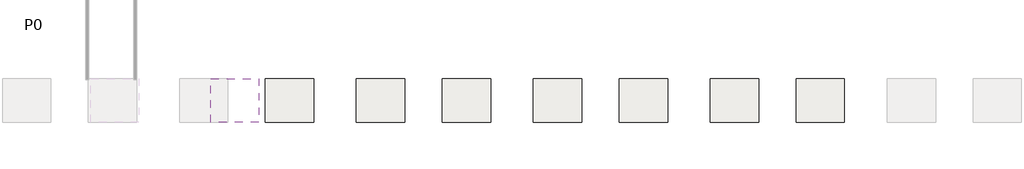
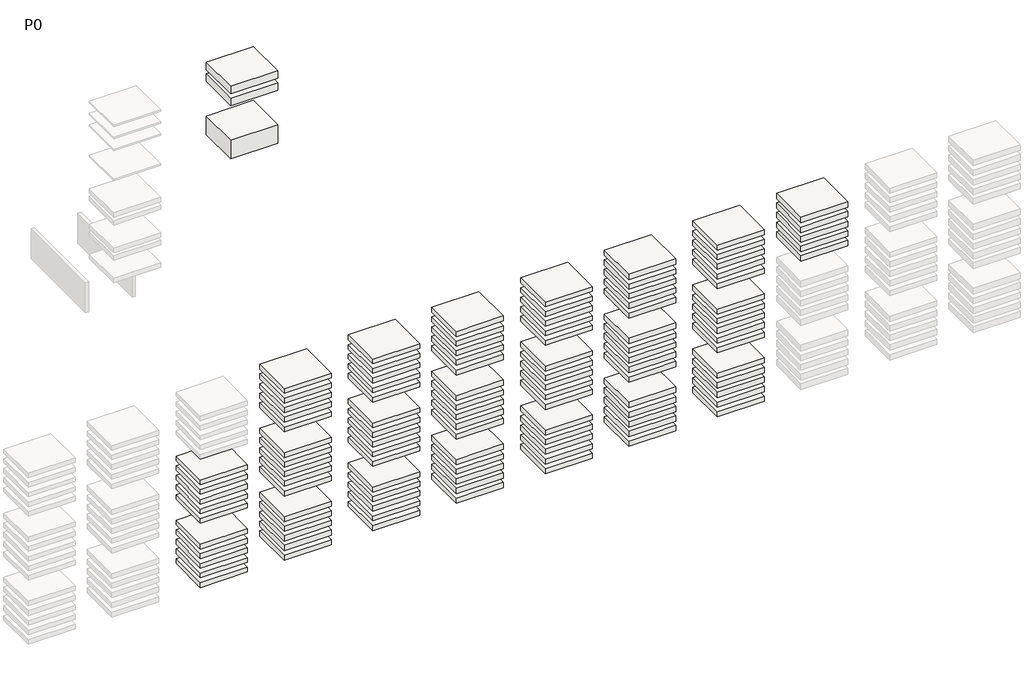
# One storey, part 5 of 11: 108 slabs.
"""IFC4 building model written with IfcOpenShell, lengths in millimetres."""

from ifc_helpers import new_model, si_unit, frame, origin, place, context, project, spatial, polyline, outline, extrude, element, save

model = new_model("IFC4")

# Units and contexts
model_context = context("Model", 3, world=origin())
ifc_project = project(units=[si_unit("LENGTHUNIT", "METRE", prefix="MILLI")], contexts=[model_context])

# Site, building, storey
site = spatial("IfcSite", under=ifc_project)
building = spatial("IfcBuilding", under=site)
storey = spatial("IfcBuildingStorey", under=building, Name="P0", Elevation=0.0)

# Slabs
placement = place(None, origin())
element("IfcSlab", 1, ObjectType="NNEH19 H6", at=placement, inside=storey, context=model_context, shape_type="SweptSolid", body=[
    extrude(outline(polyline([(97510.1564071, 1686.0689128), (97510.1564071, -1013.9310872), (94510.1564071, -1013.9310872), (94510.1564071, 1686.0689128), (97510.1564071, 1686.0689128)])), frame((0.0, 0.0, -11789.5322376), z_axis=(0.0, 0.0, 1.0), x_axis=(1.0, 0.0, 0.0)), (0.0, 0.0, 1.0), 308.0),
])
element("IfcSlab", 2, ObjectType="NNEH19 H6", at=placement, inside=storey, context=model_context, shape_type="SweptSolid", body=[
    extrude(outline(polyline([(97510.1564071, 1686.0689128), (97510.1564071, -1013.9310872), (94510.1564071, -1013.9310872), (94510.1564071, 1686.0689128), (97510.1564071, 1686.0689128)])), frame((0.0, 0.0, -12439.5322376), z_axis=(0.0, 0.0, 1.0), x_axis=(1.0, 0.0, 0.0)), (0.0, 0.0, 1.0), 308.0),
])
element("IfcSlab", 3, ObjectType="NNEH19 H6", at=placement, inside=storey, context=model_context, shape_type="SweptSolid", body=[
    extrude(outline(polyline([(97510.1564071, 1686.0689128), (97510.1564071, -1013.9310872), (94510.1564071, -1013.9310872), (94510.1564071, 1686.0689128), (97510.1564071, 1686.0689128)])), frame((0.0, 0.0, -13089.5322376), z_axis=(0.0, 0.0, 1.0), x_axis=(1.0, 0.0, 0.0)), (0.0, 0.0, 1.0), 308.0),
])
element("IfcSlab", 4, ObjectType="NNEH19 H6", at=placement, inside=storey, context=model_context, shape_type="SweptSolid", body=[
    extrude(outline(polyline([(97510.1564071, 1686.0689128), (97510.1564071, -1013.9310872), (94510.1564071, -1013.9310872), (94510.1564071, 1686.0689128), (97510.1564071, 1686.0689128)])), frame((0.0, 0.0, -13739.5322376), z_axis=(0.0, 0.0, 1.0), x_axis=(1.0, 0.0, 0.0)), (0.0, 0.0, 1.0), 308.0),
])
element("IfcSlab", 5, ObjectType="NNEH19 H6", at=placement, inside=storey, context=model_context, shape_type="SweptSolid", body=[
    extrude(outline(polyline([(97510.1564071, 1686.0689128), (97510.1564071, -1013.9310872), (94510.1564071, -1013.9310872), (94510.1564071, 1686.0689128), (97510.1564071, 1686.0689128)])), frame((0.0, 0.0, -14389.5322376), z_axis=(0.0, 0.0, 1.0), x_axis=(1.0, 0.0, 0.0)), (0.0, 0.0, 1.0), 308.0),
])
element("IfcSlab", 6, ObjectType="NNEH19 H7", at=placement, inside=storey, context=model_context, shape_type="SweptSolid", body=[
    extrude(outline(polyline([(97510.1564071, 1686.0689128), (97510.1564071, -1013.9310872), (94510.1564071, -1013.9310872), (94510.1564071, 1686.0689128), (97510.1564071, 1686.0689128)])), frame((0.0, 0.0, -16119.5323192), z_axis=(0.0, 0.0, 1.0), x_axis=(1.0, 0.0, 0.0)), (0.0, 0.0, 1.0), 318.0),
])
element("IfcSlab", 7, ObjectType="NNEH19 H7", at=placement, inside=storey, context=model_context, shape_type="SweptSolid", body=[
    extrude(outline(polyline([(97510.1564071, 1686.0689128), (97510.1564071, -1013.9310872), (94510.1564071, -1013.9310872), (94510.1564071, 1686.0689128), (97510.1564071, 1686.0689128)])), frame((0.0, 0.0, -16769.5323192), z_axis=(0.0, 0.0, 1.0), x_axis=(1.0, 0.0, 0.0)), (0.0, 0.0, 1.0), 318.0),
])
element("IfcSlab", 8, ObjectType="NNEH19 H7", at=placement, inside=storey, context=model_context, shape_type="SweptSolid", body=[
    extrude(outline(polyline([(97510.1564071, 1686.0689128), (97510.1564071, -1013.9310872), (94510.1564071, -1013.9310872), (94510.1564071, 1686.0689128), (97510.1564071, 1686.0689128)])), frame((0.0, 0.0, -17419.5323192), z_axis=(0.0, 0.0, 1.0), x_axis=(1.0, 0.0, 0.0)), (0.0, 0.0, 1.0), 318.0),
])
element("IfcSlab", 9, ObjectType="NNEH19 H7", at=placement, inside=storey, context=model_context, shape_type="SweptSolid", body=[
    extrude(outline(polyline([(97510.1564071, 1686.0689128), (97510.1564071, -1013.9310872), (94510.1564071, -1013.9310872), (94510.1564071, 1686.0689128), (97510.1564071, 1686.0689128)])), frame((0.0, 0.0, -18069.5323192), z_axis=(0.0, 0.0, 1.0), x_axis=(1.0, 0.0, 0.0)), (0.0, 0.0, 1.0), 318.0),
])
element("IfcSlab", 10, ObjectType="NNEH19 H7", at=placement, inside=storey, context=model_context, shape_type="SweptSolid", body=[
    extrude(outline(polyline([(97510.1564071, 1686.0689128), (97510.1564071, -1013.9310872), (94510.1564071, -1013.9310872), (94510.1564071, 1686.0689128), (97510.1564071, 1686.0689128)])), frame((0.0, 0.0, -18719.5323192), z_axis=(0.0, 0.0, 1.0), x_axis=(1.0, 0.0, 0.0)), (0.0, 0.0, 1.0), 318.0),
])
element("IfcSlab", 11, ObjectType="NNEH19 H8", at=placement, inside=storey, context=model_context, shape_type="SweptSolid", body=[
    extrude(outline(polyline([(102850.1564071, 1686.0689128), (102850.1564071, -1013.9310872), (99850.1564071, -1013.9310872), (99850.1564071, 1686.0689128), (102850.1564071, 1686.0689128)])), frame((0.0, 0.0, -7489.5323192), z_axis=(0.0, 0.0, 1.0), x_axis=(1.0, 0.0, 0.0)), (0.0, 0.0, 1.0), 328.0),
])
element("IfcSlab", 12, ObjectType="NNEH19 H8", at=placement, inside=storey, context=model_context, shape_type="SweptSolid", body=[
    extrude(outline(polyline([(102850.1564071, 1686.0689128), (102850.1564071, -1013.9310872), (99850.1564071, -1013.9310872), (99850.1564071, 1686.0689128), (102850.1564071, 1686.0689128)])), frame((0.0, 0.0, -8139.5323192), z_axis=(0.0, 0.0, 1.0), x_axis=(1.0, 0.0, 0.0)), (0.0, 0.0, 1.0), 328.0),
])
element("IfcSlab", 13, ObjectType="NNEH19 H8", at=placement, inside=storey, context=model_context, shape_type="SweptSolid", body=[
    extrude(outline(polyline([(102850.1564071, 1686.0689128), (102850.1564071, -1013.9310872), (99850.1564071, -1013.9310872), (99850.1564071, 1686.0689128), (102850.1564071, 1686.0689128)])), frame((0.0, 0.0, -8789.5323192), z_axis=(0.0, 0.0, 1.0), x_axis=(1.0, 0.0, 0.0)), (0.0, 0.0, 1.0), 328.0),
])
element("IfcSlab", 14, ObjectType="NNEH19 H8", at=placement, inside=storey, context=model_context, shape_type="SweptSolid", body=[
    extrude(outline(polyline([(102850.1564071, 1686.0689128), (102850.1564071, -1013.9310872), (99850.1564071, -1013.9310872), (99850.1564071, 1686.0689128), (102850.1564071, 1686.0689128)])), frame((0.0, 0.0, -9439.5323192), z_axis=(0.0, 0.0, 1.0), x_axis=(1.0, 0.0, 0.0)), (0.0, 0.0, 1.0), 328.0),
])
element("IfcSlab", 15, ObjectType="NNEH19 H8", at=placement, inside=storey, context=model_context, shape_type="SweptSolid", body=[
    extrude(outline(polyline([(102850.1564071, 1686.0689128), (102850.1564071, -1013.9310872), (99850.1564071, -1013.9310872), (99850.1564071, 1686.0689128), (102850.1564071, 1686.0689128)])), frame((0.0, 0.0, -10089.5324008), z_axis=(0.0, 0.0, 1.0), x_axis=(1.0, 0.0, 0.0)), (0.0, 0.0, 1.0), 328.0),
])
element("IfcSlab", 16, ObjectType="NNEH19 H9", at=placement, inside=storey, context=model_context, shape_type="SweptSolid", body=[
    extrude(outline(polyline([(102850.1564071, 1686.0689128), (102850.1564071, -1013.9310872), (99850.1564071, -1013.9310872), (99850.1564071, 1686.0689128), (102850.1564071, 1686.0689128)])), frame((0.0, 0.0, -11819.5322376), z_axis=(0.0, 0.0, 1.0), x_axis=(1.0, 0.0, 0.0)), (0.0, 0.0, 1.0), 338.0),
])
element("IfcSlab", 17, ObjectType="NNEH19 H9", at=placement, inside=storey, context=model_context, shape_type="SweptSolid", body=[
    extrude(outline(polyline([(102850.1564071, 1686.0689128), (102850.1564071, -1013.9310872), (99850.1564071, -1013.9310872), (99850.1564071, 1686.0689128), (102850.1564071, 1686.0689128)])), frame((0.0, 0.0, -12469.5322376), z_axis=(0.0, 0.0, 1.0), x_axis=(1.0, 0.0, 0.0)), (0.0, 0.0, 1.0), 338.0),
])
element("IfcSlab", 18, ObjectType="NNEH19 H9", at=placement, inside=storey, context=model_context, shape_type="SweptSolid", body=[
    extrude(outline(polyline([(102850.1564071, 1686.0689128), (102850.1564071, -1013.9310872), (99850.1564071, -1013.9310872), (99850.1564071, 1686.0689128), (102850.1564071, 1686.0689128)])), frame((0.0, 0.0, -13119.5322376), z_axis=(0.0, 0.0, 1.0), x_axis=(1.0, 0.0, 0.0)), (0.0, 0.0, 1.0), 338.0),
])
element("IfcSlab", 19, ObjectType="NNEH19 H9", at=placement, inside=storey, context=model_context, shape_type="SweptSolid", body=[
    extrude(outline(polyline([(102850.1564071, 1686.0689128), (102850.1564071, -1013.9310872), (99850.1564071, -1013.9310872), (99850.1564071, 1686.0689128), (102850.1564071, 1686.0689128)])), frame((0.0, 0.0, -13769.5322376), z_axis=(0.0, 0.0, 1.0), x_axis=(1.0, 0.0, 0.0)), (0.0, 0.0, 1.0), 338.0),
])
element("IfcSlab", 20, ObjectType="NNEH19 H9", at=placement, inside=storey, context=model_context, shape_type="SweptSolid", body=[
    extrude(outline(polyline([(102850.1564071, 1686.0689128), (102850.1564071, -1013.9310872), (99850.1564071, -1013.9310872), (99850.1564071, 1686.0689128), (102850.1564071, 1686.0689128)])), frame((0.0, 0.0, -14419.5322376), z_axis=(0.0, 0.0, 1.0), x_axis=(1.0, 0.0, 0.0)), (0.0, 0.0, 1.0), 338.0),
])
element("IfcSlab", 21, ObjectType="NNEH19 H10", at=placement, inside=storey, context=model_context, shape_type="SweptSolid", body=[
    extrude(outline(polyline([(102850.1564071, 1686.0689128), (102850.1564071, -1013.9310872), (99850.1564071, -1013.9310872), (99850.1564071, 1686.0689128), (102850.1564071, 1686.0689128)])), frame((0.0, 0.0, -16149.5323192), z_axis=(0.0, 0.0, 1.0), x_axis=(1.0, 0.0, 0.0)), (0.0, 0.0, 1.0), 348.0),
])
element("IfcSlab", 22, ObjectType="NNEH19 H10", at=placement, inside=storey, context=model_context, shape_type="SweptSolid", body=[
    extrude(outline(polyline([(102850.1564071, 1686.0689128), (102850.1564071, -1013.9310872), (99850.1564071, -1013.9310872), (99850.1564071, 1686.0689128), (102850.1564071, 1686.0689128)])), frame((0.0, 0.0, -16799.5323192), z_axis=(0.0, 0.0, 1.0), x_axis=(1.0, 0.0, 0.0)), (0.0, 0.0, 1.0), 348.0),
])
element("IfcSlab", 23, ObjectType="NNEH19 H10", at=placement, inside=storey, context=model_context, shape_type="SweptSolid", body=[
    extrude(outline(polyline([(102850.1564071, 1686.0689128), (102850.1564071, -1013.9310872), (99850.1564071, -1013.9310872), (99850.1564071, 1686.0689128), (102850.1564071, 1686.0689128)])), frame((0.0, 0.0, -17449.5323192), z_axis=(0.0, 0.0, 1.0), x_axis=(1.0, 0.0, 0.0)), (0.0, 0.0, 1.0), 348.0),
])
element("IfcSlab", 24, ObjectType="NNEH19 H10", at=placement, inside=storey, context=model_context, shape_type="SweptSolid", body=[
    extrude(outline(polyline([(102850.1564071, 1686.0689128), (102850.1564071, -1013.9310872), (99850.1564071, -1013.9310872), (99850.1564071, 1686.0689128), (102850.1564071, 1686.0689128)])), frame((0.0, 0.0, -18099.5323192), z_axis=(0.0, 0.0, 1.0), x_axis=(1.0, 0.0, 0.0)), (0.0, 0.0, 1.0), 348.0),
])
element("IfcSlab", 25, ObjectType="NNEH19 H10", at=placement, inside=storey, context=model_context, shape_type="SweptSolid", body=[
    extrude(outline(polyline([(102850.1564071, 1686.0689128), (102850.1564071, -1013.9310872), (99850.1564071, -1013.9310872), (99850.1564071, 1686.0689128), (102850.1564071, 1686.0689128)])), frame((0.0, 0.0, -18749.5323192), z_axis=(0.0, 0.0, 1.0), x_axis=(1.0, 0.0, 0.0)), (0.0, 0.0, 1.0), 348.0),
])
element("IfcSlab", 26, ObjectType="NNEH20 H5", at=placement, inside=storey, context=model_context, shape_type="SweptSolid", body=[
    extrude(outline(polyline([(108510.1564071, 1686.0689128), (108510.1564071, -1013.9310872), (105510.1564071, -1013.9310872), (105510.1564071, 1686.0689128), (108510.1564071, 1686.0689128)])), frame((0.0, 0.0, -7469.5324008), z_axis=(0.0, 0.0, 1.0), x_axis=(1.0, 0.0, 0.0)), (0.0, 0.0, 1.0), 308.0),
])
element("IfcSlab", 27, ObjectType="NNEH20 H5", at=placement, inside=storey, context=model_context, shape_type="SweptSolid", body=[
    extrude(outline(polyline([(108510.1564071, 1686.0689128), (108510.1564071, -1013.9310872), (105510.1564071, -1013.9310872), (105510.1564071, 1686.0689128), (108510.1564071, 1686.0689128)])), frame((0.0, 0.0, -8119.5323192), z_axis=(0.0, 0.0, 1.0), x_axis=(1.0, 0.0, 0.0)), (0.0, 0.0, 1.0), 308.0),
])
element("IfcSlab", 28, ObjectType="NNEH20 H5", at=placement, inside=storey, context=model_context, shape_type="SweptSolid", body=[
    extrude(outline(polyline([(108510.1564071, 1686.0689128), (108510.1564071, -1013.9310872), (105510.1564071, -1013.9310872), (105510.1564071, 1686.0689128), (108510.1564071, 1686.0689128)])), frame((0.0, 0.0, -8769.5323192), z_axis=(0.0, 0.0, 1.0), x_axis=(1.0, 0.0, 0.0)), (0.0, 0.0, 1.0), 308.0),
])
element("IfcSlab", 29, ObjectType="NNEH20 H5", at=placement, inside=storey, context=model_context, shape_type="SweptSolid", body=[
    extrude(outline(polyline([(108510.1564071, 1686.0689128), (108510.1564071, -1013.9310872), (105510.1564071, -1013.9310872), (105510.1564071, 1686.0689128), (108510.1564071, 1686.0689128)])), frame((0.0, 0.0, -9419.5323192), z_axis=(0.0, 0.0, 1.0), x_axis=(1.0, 0.0, 0.0)), (0.0, 0.0, 1.0), 308.0),
])
element("IfcSlab", 30, ObjectType="NNEH20 H5", at=placement, inside=storey, context=model_context, shape_type="SweptSolid", body=[
    extrude(outline(polyline([(108510.1564071, 1686.0689128), (108510.1564071, -1013.9310872), (105510.1564071, -1013.9310872), (105510.1564071, 1686.0689128), (108510.1564071, 1686.0689128)])), frame((0.0, 0.0, -10069.5324008), z_axis=(0.0, 0.0, 1.0), x_axis=(1.0, 0.0, 0.0)), (0.0, 0.0, 1.0), 308.0),
])
element("IfcSlab", 31, ObjectType="NNEH20 H6", at=placement, inside=storey, context=model_context, shape_type="SweptSolid", body=[
    extrude(outline(polyline([(108510.1564071, 1686.0689128), (108510.1564071, -1013.9310872), (105510.1564071, -1013.9310872), (105510.1564071, 1686.0689128), (108510.1564071, 1686.0689128)])), frame((0.0, 0.0, -11799.5322376), z_axis=(0.0, 0.0, 1.0), x_axis=(1.0, 0.0, 0.0)), (0.0, 0.0, 1.0), 318.0),
])
element("IfcSlab", 32, ObjectType="NNEH20 H6", at=placement, inside=storey, context=model_context, shape_type="SweptSolid", body=[
    extrude(outline(polyline([(108510.1564071, 1686.0689128), (108510.1564071, -1013.9310872), (105510.1564071, -1013.9310872), (105510.1564071, 1686.0689128), (108510.1564071, 1686.0689128)])), frame((0.0, 0.0, -12449.5322376), z_axis=(0.0, 0.0, 1.0), x_axis=(1.0, 0.0, 0.0)), (0.0, 0.0, 1.0), 318.0),
])
element("IfcSlab", 33, ObjectType="NNEH20 H6", at=placement, inside=storey, context=model_context, shape_type="SweptSolid", body=[
    extrude(outline(polyline([(108510.1564071, 1686.0689128), (108510.1564071, -1013.9310872), (105510.1564071, -1013.9310872), (105510.1564071, 1686.0689128), (108510.1564071, 1686.0689128)])), frame((0.0, 0.0, -13099.5322376), z_axis=(0.0, 0.0, 1.0), x_axis=(1.0, 0.0, 0.0)), (0.0, 0.0, 1.0), 318.0),
])
element("IfcSlab", 34, ObjectType="NNEH20 H6", at=placement, inside=storey, context=model_context, shape_type="SweptSolid", body=[
    extrude(outline(polyline([(108510.1564071, 1686.0689128), (108510.1564071, -1013.9310872), (105510.1564071, -1013.9310872), (105510.1564071, 1686.0689128), (108510.1564071, 1686.0689128)])), frame((0.0, 0.0, -13749.5322376), z_axis=(0.0, 0.0, 1.0), x_axis=(1.0, 0.0, 0.0)), (0.0, 0.0, 1.0), 318.0),
])
element("IfcSlab", 35, ObjectType="NNEH20 H6", at=placement, inside=storey, context=model_context, shape_type="SweptSolid", body=[
    extrude(outline(polyline([(108510.1564071, 1686.0689128), (108510.1564071, -1013.9310872), (105510.1564071, -1013.9310872), (105510.1564071, 1686.0689128), (108510.1564071, 1686.0689128)])), frame((0.0, 0.0, -14399.5322376), z_axis=(0.0, 0.0, 1.0), x_axis=(1.0, 0.0, 0.0)), (0.0, 0.0, 1.0), 318.0),
])
element("IfcSlab", 36, ObjectType="NNEH20 H7", at=placement, inside=storey, context=model_context, shape_type="SweptSolid", body=[
    extrude(outline(polyline([(108510.1564071, 1686.0689128), (108510.1564071, -1013.9310872), (105510.1564071, -1013.9310872), (105510.1564071, 1686.0689128), (108510.1564071, 1686.0689128)])), frame((0.0, 0.0, -16129.5323192), z_axis=(0.0, 0.0, 1.0), x_axis=(1.0, 0.0, 0.0)), (0.0, 0.0, 1.0), 328.0),
])
element("IfcSlab", 37, ObjectType="NNEH20 H7", at=placement, inside=storey, context=model_context, shape_type="SweptSolid", body=[
    extrude(outline(polyline([(108510.1564071, 1686.0689128), (108510.1564071, -1013.9310872), (105510.1564071, -1013.9310872), (105510.1564071, 1686.0689128), (108510.1564071, 1686.0689128)])), frame((0.0, 0.0, -16779.5323192), z_axis=(0.0, 0.0, 1.0), x_axis=(1.0, 0.0, 0.0)), (0.0, 0.0, 1.0), 328.0),
])
element("IfcSlab", 38, ObjectType="NNEH20 H7", at=placement, inside=storey, context=model_context, shape_type="SweptSolid", body=[
    extrude(outline(polyline([(108510.1564071, 1686.0689128), (108510.1564071, -1013.9310872), (105510.1564071, -1013.9310872), (105510.1564071, 1686.0689128), (108510.1564071, 1686.0689128)])), frame((0.0, 0.0, -17429.5323192), z_axis=(0.0, 0.0, 1.0), x_axis=(1.0, 0.0, 0.0)), (0.0, 0.0, 1.0), 328.0),
])
element("IfcSlab", 39, ObjectType="NNEH20 H7", at=placement, inside=storey, context=model_context, shape_type="SweptSolid", body=[
    extrude(outline(polyline([(108510.1564071, 1686.0689128), (108510.1564071, -1013.9310872), (105510.1564071, -1013.9310872), (105510.1564071, 1686.0689128), (108510.1564071, 1686.0689128)])), frame((0.0, 0.0, -18079.5323192), z_axis=(0.0, 0.0, 1.0), x_axis=(1.0, 0.0, 0.0)), (0.0, 0.0, 1.0), 328.0),
])
element("IfcSlab", 40, ObjectType="NNEH20 H7", at=placement, inside=storey, context=model_context, shape_type="SweptSolid", body=[
    extrude(outline(polyline([(108510.1564071, 1686.0689128), (108510.1564071, -1013.9310872), (105510.1564071, -1013.9310872), (105510.1564071, 1686.0689128), (108510.1564071, 1686.0689128)])), frame((0.0, 0.0, -18729.5323192), z_axis=(0.0, 0.0, 1.0), x_axis=(1.0, 0.0, 0.0)), (0.0, 0.0, 1.0), 328.0),
])
element("IfcSlab", 41, ObjectType="NNEH20 H8", at=placement, inside=storey, context=model_context, shape_type="SweptSolid", body=[
    extrude(outline(polyline([(113850.1564071, 1686.0689128), (113850.1564071, -1013.9310872), (110850.1564071, -1013.9310872), (110850.1564071, 1686.0689128), (113850.1564071, 1686.0689128)])), frame((0.0, 0.0, -7499.5323192), z_axis=(0.0, 0.0, 1.0), x_axis=(1.0, 0.0, 0.0)), (0.0, 0.0, 1.0), 338.0),
])
element("IfcSlab", 42, ObjectType="NNEH20 H8", at=placement, inside=storey, context=model_context, shape_type="SweptSolid", body=[
    extrude(outline(polyline([(113850.1564071, 1686.0689128), (113850.1564071, -1013.9310872), (110850.1564071, -1013.9310872), (110850.1564071, 1686.0689128), (113850.1564071, 1686.0689128)])), frame((0.0, 0.0, -8149.5323192), z_axis=(0.0, 0.0, 1.0), x_axis=(1.0, 0.0, 0.0)), (0.0, 0.0, 1.0), 338.0),
])
element("IfcSlab", 43, ObjectType="NNEH20 H8", at=placement, inside=storey, context=model_context, shape_type="SweptSolid", body=[
    extrude(outline(polyline([(113850.1564071, 1686.0689128), (113850.1564071, -1013.9310872), (110850.1564071, -1013.9310872), (110850.1564071, 1686.0689128), (113850.1564071, 1686.0689128)])), frame((0.0, 0.0, -8799.5323192), z_axis=(0.0, 0.0, 1.0), x_axis=(1.0, 0.0, 0.0)), (0.0, 0.0, 1.0), 338.0),
])
element("IfcSlab", 44, ObjectType="NNEH20 H8", at=placement, inside=storey, context=model_context, shape_type="SweptSolid", body=[
    extrude(outline(polyline([(113850.1564071, 1686.0689128), (113850.1564071, -1013.9310872), (110850.1564071, -1013.9310872), (110850.1564071, 1686.0689128), (113850.1564071, 1686.0689128)])), frame((0.0, 0.0, -9449.5323192), z_axis=(0.0, 0.0, 1.0), x_axis=(1.0, 0.0, 0.0)), (0.0, 0.0, 1.0), 338.0),
])
element("IfcSlab", 45, ObjectType="NNEH20 H8", at=placement, inside=storey, context=model_context, shape_type="SweptSolid", body=[
    extrude(outline(polyline([(113850.1564071, 1686.0689128), (113850.1564071, -1013.9310872), (110850.1564071, -1013.9310872), (110850.1564071, 1686.0689128), (113850.1564071, 1686.0689128)])), frame((0.0, 0.0, -10099.5324008), z_axis=(0.0, 0.0, 1.0), x_axis=(1.0, 0.0, 0.0)), (0.0, 0.0, 1.0), 338.0),
])
element("IfcSlab", 46, ObjectType="NNEH20 H9", at=placement, inside=storey, context=model_context, shape_type="SweptSolid", body=[
    extrude(outline(polyline([(113850.1564071, 1686.0689128), (113850.1564071, -1013.9310872), (110850.1564071, -1013.9310872), (110850.1564071, 1686.0689128), (113850.1564071, 1686.0689128)])), frame((0.0, 0.0, -11829.5322376), z_axis=(0.0, 0.0, 1.0), x_axis=(1.0, 0.0, 0.0)), (0.0, 0.0, 1.0), 348.0),
])
element("IfcSlab", 47, ObjectType="NNEH20 H9", at=placement, inside=storey, context=model_context, shape_type="SweptSolid", body=[
    extrude(outline(polyline([(113850.1564071, 1686.0689128), (113850.1564071, -1013.9310872), (110850.1564071, -1013.9310872), (110850.1564071, 1686.0689128), (113850.1564071, 1686.0689128)])), frame((0.0, 0.0, -12479.5322376), z_axis=(0.0, 0.0, 1.0), x_axis=(1.0, 0.0, 0.0)), (0.0, 0.0, 1.0), 348.0),
])
element("IfcSlab", 48, ObjectType="NNEH20 H9", at=placement, inside=storey, context=model_context, shape_type="SweptSolid", body=[
    extrude(outline(polyline([(113850.1564071, 1686.0689128), (113850.1564071, -1013.9310872), (110850.1564071, -1013.9310872), (110850.1564071, 1686.0689128), (113850.1564071, 1686.0689128)])), frame((0.0, 0.0, -13129.5322376), z_axis=(0.0, 0.0, 1.0), x_axis=(1.0, 0.0, 0.0)), (0.0, 0.0, 1.0), 348.0),
])
element("IfcSlab", 49, ObjectType="NNEH20 H9", at=placement, inside=storey, context=model_context, shape_type="SweptSolid", body=[
    extrude(outline(polyline([(113850.1564071, 1686.0689128), (113850.1564071, -1013.9310872), (110850.1564071, -1013.9310872), (110850.1564071, 1686.0689128), (113850.1564071, 1686.0689128)])), frame((0.0, 0.0, -13779.5322376), z_axis=(0.0, 0.0, 1.0), x_axis=(1.0, 0.0, 0.0)), (0.0, 0.0, 1.0), 348.0),
])
element("IfcSlab", 50, ObjectType="NNEH20 H9", at=placement, inside=storey, context=model_context, shape_type="SweptSolid", body=[
    extrude(outline(polyline([(113850.1564071, 1686.0689128), (113850.1564071, -1013.9310872), (110850.1564071, -1013.9310872), (110850.1564071, 1686.0689128), (113850.1564071, 1686.0689128)])), frame((0.0, 0.0, -14429.5322376), z_axis=(0.0, 0.0, 1.0), x_axis=(1.0, 0.0, 0.0)), (0.0, 0.0, 1.0), 348.0),
])
element("IfcSlab", 51, ObjectType="NNEH20 H10", at=placement, inside=storey, context=model_context, shape_type="SweptSolid", body=[
    extrude(outline(polyline([(113850.1564071, 1686.0689128), (113850.1564071, -1013.9310872), (110850.1564071, -1013.9310872), (110850.1564071, 1686.0689128), (113850.1564071, 1686.0689128)])), frame((0.0, 0.0, -16159.5323192), z_axis=(0.0, 0.0, 1.0), x_axis=(1.0, 0.0, 0.0)), (0.0, 0.0, 1.0), 358.0),
])
element("IfcSlab", 52, ObjectType="NNEH20 H10", at=placement, inside=storey, context=model_context, shape_type="SweptSolid", body=[
    extrude(outline(polyline([(113850.1564071, 1686.0689128), (113850.1564071, -1013.9310872), (110850.1564071, -1013.9310872), (110850.1564071, 1686.0689128), (113850.1564071, 1686.0689128)])), frame((0.0, 0.0, -16809.5323192), z_axis=(0.0, 0.0, 1.0), x_axis=(1.0, 0.0, 0.0)), (0.0, 0.0, 1.0), 358.0),
])
element("IfcSlab", 53, ObjectType="NNEH20 H10", at=placement, inside=storey, context=model_context, shape_type="SweptSolid", body=[
    extrude(outline(polyline([(113850.1564071, 1686.0689128), (113850.1564071, -1013.9310872), (110850.1564071, -1013.9310872), (110850.1564071, 1686.0689128), (113850.1564071, 1686.0689128)])), frame((0.0, 0.0, -17459.5323192), z_axis=(0.0, 0.0, 1.0), x_axis=(1.0, 0.0, 0.0)), (0.0, 0.0, 1.0), 358.0),
])
element("IfcSlab", 54, ObjectType="NNEH20 H10", at=placement, inside=storey, context=model_context, shape_type="SweptSolid", body=[
    extrude(outline(polyline([(113850.1564071, 1686.0689128), (113850.1564071, -1013.9310872), (110850.1564071, -1013.9310872), (110850.1564071, 1686.0689128), (113850.1564071, 1686.0689128)])), frame((0.0, 0.0, -18109.5323192), z_axis=(0.0, 0.0, 1.0), x_axis=(1.0, 0.0, 0.0)), (0.0, 0.0, 1.0), 358.0),
])
element("IfcSlab", 55, ObjectType="NNEH20 H10", at=placement, inside=storey, context=model_context, shape_type="SweptSolid", body=[
    extrude(outline(polyline([(113850.1564071, 1686.0689128), (113850.1564071, -1013.9310872), (110850.1564071, -1013.9310872), (110850.1564071, 1686.0689128), (113850.1564071, 1686.0689128)])), frame((0.0, 0.0, -18759.5323192), z_axis=(0.0, 0.0, 1.0), x_axis=(1.0, 0.0, 0.0)), (0.0, 0.0, 1.0), 358.0),
])
element("IfcSlab", 56, ObjectType="NNEH21 H5", at=placement, inside=storey, context=model_context, shape_type="SweptSolid", body=[
    extrude(outline(polyline([(119510.1564071, 1686.0689128), (119510.1564071, -1013.9310872), (116510.1564071, -1013.9310872), (116510.1564071, 1686.0689128), (119510.1564071, 1686.0689128)])), frame((0.0, 0.0, -7479.5324008), z_axis=(0.0, 0.0, 1.0), x_axis=(1.0, 0.0, 0.0)), (0.0, 0.0, 1.0), 318.0),
])
element("IfcSlab", 57, ObjectType="NNEH21 H5", at=placement, inside=storey, context=model_context, shape_type="SweptSolid", body=[
    extrude(outline(polyline([(119510.1564071, 1686.0689128), (119510.1564071, -1013.9310872), (116510.1564071, -1013.9310872), (116510.1564071, 1686.0689128), (119510.1564071, 1686.0689128)])), frame((0.0, 0.0, -8129.5323192), z_axis=(0.0, 0.0, 1.0), x_axis=(1.0, 0.0, 0.0)), (0.0, 0.0, 1.0), 318.0),
])
element("IfcSlab", 58, ObjectType="NNEH21 H5", at=placement, inside=storey, context=model_context, shape_type="SweptSolid", body=[
    extrude(outline(polyline([(119510.1564071, 1686.0689128), (119510.1564071, -1013.9310872), (116510.1564071, -1013.9310872), (116510.1564071, 1686.0689128), (119510.1564071, 1686.0689128)])), frame((0.0, 0.0, -8779.5323192), z_axis=(0.0, 0.0, 1.0), x_axis=(1.0, 0.0, 0.0)), (0.0, 0.0, 1.0), 318.0),
])
element("IfcSlab", 59, ObjectType="NNEH21 H5", at=placement, inside=storey, context=model_context, shape_type="SweptSolid", body=[
    extrude(outline(polyline([(119510.1564071, 1686.0689128), (119510.1564071, -1013.9310872), (116510.1564071, -1013.9310872), (116510.1564071, 1686.0689128), (119510.1564071, 1686.0689128)])), frame((0.0, 0.0, -9429.5323192), z_axis=(0.0, 0.0, 1.0), x_axis=(1.0, 0.0, 0.0)), (0.0, 0.0, 1.0), 318.0),
])
element("IfcSlab", 60, ObjectType="NNEH21 H5", at=placement, inside=storey, context=model_context, shape_type="SweptSolid", body=[
    extrude(outline(polyline([(119510.1564071, 1686.0689128), (119510.1564071, -1013.9310872), (116510.1564071, -1013.9310872), (116510.1564071, 1686.0689128), (119510.1564071, 1686.0689128)])), frame((0.0, 0.0, -10079.5324008), z_axis=(0.0, 0.0, 1.0), x_axis=(1.0, 0.0, 0.0)), (0.0, 0.0, 1.0), 318.0),
])
element("IfcSlab", 61, ObjectType="NNEH21 H6", at=placement, inside=storey, context=model_context, shape_type="SweptSolid", body=[
    extrude(outline(polyline([(119510.1564071, 1686.0689128), (119510.1564071, -1013.9310872), (116510.1564071, -1013.9310872), (116510.1564071, 1686.0689128), (119510.1564071, 1686.0689128)])), frame((0.0, 0.0, -11809.5322376), z_axis=(0.0, 0.0, 1.0), x_axis=(1.0, 0.0, 0.0)), (0.0, 0.0, 1.0), 328.0),
])
element("IfcSlab", 62, ObjectType="NNEH21 H6", at=placement, inside=storey, context=model_context, shape_type="SweptSolid", body=[
    extrude(outline(polyline([(119510.1564071, 1686.0689128), (119510.1564071, -1013.9310872), (116510.1564071, -1013.9310872), (116510.1564071, 1686.0689128), (119510.1564071, 1686.0689128)])), frame((0.0, 0.0, -12459.5322376), z_axis=(0.0, 0.0, 1.0), x_axis=(1.0, 0.0, 0.0)), (0.0, 0.0, 1.0), 328.0),
])
element("IfcSlab", 63, ObjectType="NNEH21 H6", at=placement, inside=storey, context=model_context, shape_type="SweptSolid", body=[
    extrude(outline(polyline([(119510.1564071, 1686.0689128), (119510.1564071, -1013.9310872), (116510.1564071, -1013.9310872), (116510.1564071, 1686.0689128), (119510.1564071, 1686.0689128)])), frame((0.0, 0.0, -13109.5322376), z_axis=(0.0, 0.0, 1.0), x_axis=(1.0, 0.0, 0.0)), (0.0, 0.0, 1.0), 328.0),
])
element("IfcSlab", 64, ObjectType="NNEH21 H6", at=placement, inside=storey, context=model_context, shape_type="SweptSolid", body=[
    extrude(outline(polyline([(119510.1564071, 1686.0689128), (119510.1564071, -1013.9310872), (116510.1564071, -1013.9310872), (116510.1564071, 1686.0689128), (119510.1564071, 1686.0689128)])), frame((0.0, 0.0, -13759.5322376), z_axis=(0.0, 0.0, 1.0), x_axis=(1.0, 0.0, 0.0)), (0.0, 0.0, 1.0), 328.0),
])
element("IfcSlab", 65, ObjectType="NNEH21 H6", at=placement, inside=storey, context=model_context, shape_type="SweptSolid", body=[
    extrude(outline(polyline([(119510.1564071, 1686.0689128), (119510.1564071, -1013.9310872), (116510.1564071, -1013.9310872), (116510.1564071, 1686.0689128), (119510.1564071, 1686.0689128)])), frame((0.0, 0.0, -14409.5322376), z_axis=(0.0, 0.0, 1.0), x_axis=(1.0, 0.0, 0.0)), (0.0, 0.0, 1.0), 328.0),
])
element("IfcSlab", 66, ObjectType="NNEH21 H7", at=placement, inside=storey, context=model_context, shape_type="SweptSolid", body=[
    extrude(outline(polyline([(119510.1564071, 1686.0689128), (119510.1564071, -1013.9310872), (116510.1564071, -1013.9310872), (116510.1564071, 1686.0689128), (119510.1564071, 1686.0689128)])), frame((0.0, 0.0, -16139.5323192), z_axis=(0.0, 0.0, 1.0), x_axis=(1.0, 0.0, 0.0)), (0.0, 0.0, 1.0), 338.0),
])
element("IfcSlab", 67, ObjectType="NNEH21 H7", at=placement, inside=storey, context=model_context, shape_type="SweptSolid", body=[
    extrude(outline(polyline([(119510.1564071, 1686.0689128), (119510.1564071, -1013.9310872), (116510.1564071, -1013.9310872), (116510.1564071, 1686.0689128), (119510.1564071, 1686.0689128)])), frame((0.0, 0.0, -16789.5323192), z_axis=(0.0, 0.0, 1.0), x_axis=(1.0, 0.0, 0.0)), (0.0, 0.0, 1.0), 338.0),
])
element("IfcSlab", 68, ObjectType="NNEH21 H7", at=placement, inside=storey, context=model_context, shape_type="SweptSolid", body=[
    extrude(outline(polyline([(119510.1564071, 1686.0689128), (119510.1564071, -1013.9310872), (116510.1564071, -1013.9310872), (116510.1564071, 1686.0689128), (119510.1564071, 1686.0689128)])), frame((0.0, 0.0, -17439.5323192), z_axis=(0.0, 0.0, 1.0), x_axis=(1.0, 0.0, 0.0)), (0.0, 0.0, 1.0), 338.0),
])
element("IfcSlab", 69, ObjectType="NNEH21 H7", at=placement, inside=storey, context=model_context, shape_type="SweptSolid", body=[
    extrude(outline(polyline([(119510.1564071, 1686.0689128), (119510.1564071, -1013.9310872), (116510.1564071, -1013.9310872), (116510.1564071, 1686.0689128), (119510.1564071, 1686.0689128)])), frame((0.0, 0.0, -18089.5323192), z_axis=(0.0, 0.0, 1.0), x_axis=(1.0, 0.0, 0.0)), (0.0, 0.0, 1.0), 338.0),
])
element("IfcSlab", 70, ObjectType="NNEH21 H7", at=placement, inside=storey, context=model_context, shape_type="SweptSolid", body=[
    extrude(outline(polyline([(119510.1564071, 1686.0689128), (119510.1564071, -1013.9310872), (116510.1564071, -1013.9310872), (116510.1564071, 1686.0689128), (119510.1564071, 1686.0689128)])), frame((0.0, 0.0, -18739.5323192), z_axis=(0.0, 0.0, 1.0), x_axis=(1.0, 0.0, 0.0)), (0.0, 0.0, 1.0), 338.0),
])
element("IfcSlab", 71, ObjectType="NNEH21 H8", at=placement, inside=storey, context=model_context, shape_type="SweptSolid", body=[
    extrude(outline(polyline([(124850.1564071, 1686.0689128), (124850.1564071, -1013.9310872), (121850.1564071, -1013.9310872), (121850.1564071, 1686.0689128), (124850.1564071, 1686.0689128)])), frame((0.0, 0.0, -7509.5323192), z_axis=(0.0, 0.0, 1.0), x_axis=(1.0, 0.0, 0.0)), (0.0, 0.0, 1.0), 348.0),
])
element("IfcSlab", 72, ObjectType="NNEH21 H8", at=placement, inside=storey, context=model_context, shape_type="SweptSolid", body=[
    extrude(outline(polyline([(124850.1564071, 1686.0689128), (124850.1564071, -1013.9310872), (121850.1564071, -1013.9310872), (121850.1564071, 1686.0689128), (124850.1564071, 1686.0689128)])), frame((0.0, 0.0, -8159.5323192), z_axis=(0.0, 0.0, 1.0), x_axis=(1.0, 0.0, 0.0)), (0.0, 0.0, 1.0), 348.0),
])
element("IfcSlab", 73, ObjectType="NNEH21 H8", at=placement, inside=storey, context=model_context, shape_type="SweptSolid", body=[
    extrude(outline(polyline([(124850.1564071, 1686.0689128), (124850.1564071, -1013.9310872), (121850.1564071, -1013.9310872), (121850.1564071, 1686.0689128), (124850.1564071, 1686.0689128)])), frame((0.0, 0.0, -8809.5323192), z_axis=(0.0, 0.0, 1.0), x_axis=(1.0, 0.0, 0.0)), (0.0, 0.0, 1.0), 348.0),
])
element("IfcSlab", 74, ObjectType="NNEH21 H8", at=placement, inside=storey, context=model_context, shape_type="SweptSolid", body=[
    extrude(outline(polyline([(124850.1564071, 1686.0689128), (124850.1564071, -1013.9310872), (121850.1564071, -1013.9310872), (121850.1564071, 1686.0689128), (124850.1564071, 1686.0689128)])), frame((0.0, 0.0, -9459.5323192), z_axis=(0.0, 0.0, 1.0), x_axis=(1.0, 0.0, 0.0)), (0.0, 0.0, 1.0), 348.0),
])
element("IfcSlab", 75, ObjectType="NNEH21 H8", at=placement, inside=storey, context=model_context, shape_type="SweptSolid", body=[
    extrude(outline(polyline([(124850.1564071, 1686.0689128), (124850.1564071, -1013.9310872), (121850.1564071, -1013.9310872), (121850.1564071, 1686.0689128), (124850.1564071, 1686.0689128)])), frame((0.0, 0.0, -10109.5324008), z_axis=(0.0, 0.0, 1.0), x_axis=(1.0, 0.0, 0.0)), (0.0, 0.0, 1.0), 348.0),
])
element("IfcSlab", 76, ObjectType="NNEH21 H9", at=placement, inside=storey, context=model_context, shape_type="SweptSolid", body=[
    extrude(outline(polyline([(124850.1564071, 1686.0689128), (124850.1564071, -1013.9310872), (121850.1564071, -1013.9310872), (121850.1564071, 1686.0689128), (124850.1564071, 1686.0689128)])), frame((0.0, 0.0, -11839.5322376), z_axis=(0.0, 0.0, 1.0), x_axis=(1.0, 0.0, 0.0)), (0.0, 0.0, 1.0), 358.0),
])
element("IfcSlab", 77, ObjectType="NNEH21 H9", at=placement, inside=storey, context=model_context, shape_type="SweptSolid", body=[
    extrude(outline(polyline([(124850.1564071, 1686.0689128), (124850.1564071, -1013.9310872), (121850.1564071, -1013.9310872), (121850.1564071, 1686.0689128), (124850.1564071, 1686.0689128)])), frame((0.0, 0.0, -12489.5322376), z_axis=(0.0, 0.0, 1.0), x_axis=(1.0, 0.0, 0.0)), (0.0, 0.0, 1.0), 358.0),
])
element("IfcSlab", 78, ObjectType="NNEH21 H9", at=placement, inside=storey, context=model_context, shape_type="SweptSolid", body=[
    extrude(outline(polyline([(124850.1564071, 1686.0689128), (124850.1564071, -1013.9310872), (121850.1564071, -1013.9310872), (121850.1564071, 1686.0689128), (124850.1564071, 1686.0689128)])), frame((0.0, 0.0, -13139.5322376), z_axis=(0.0, 0.0, 1.0), x_axis=(1.0, 0.0, 0.0)), (0.0, 0.0, 1.0), 358.0),
])
element("IfcSlab", 79, ObjectType="NNEH21 H9", at=placement, inside=storey, context=model_context, shape_type="SweptSolid", body=[
    extrude(outline(polyline([(124850.1564071, 1686.0689128), (124850.1564071, -1013.9310872), (121850.1564071, -1013.9310872), (121850.1564071, 1686.0689128), (124850.1564071, 1686.0689128)])), frame((0.0, 0.0, -13789.5322376), z_axis=(0.0, 0.0, 1.0), x_axis=(1.0, 0.0, 0.0)), (0.0, 0.0, 1.0), 358.0),
])
element("IfcSlab", 80, ObjectType="NNEH21 H9", at=placement, inside=storey, context=model_context, shape_type="SweptSolid", body=[
    extrude(outline(polyline([(124850.1564071, 1686.0689128), (124850.1564071, -1013.9310872), (121850.1564071, -1013.9310872), (121850.1564071, 1686.0689128), (124850.1564071, 1686.0689128)])), frame((0.0, 0.0, -14439.5322376), z_axis=(0.0, 0.0, 1.0), x_axis=(1.0, 0.0, 0.0)), (0.0, 0.0, 1.0), 358.0),
])
element("IfcSlab", 81, ObjectType="NNEH21 H10", at=placement, inside=storey, context=model_context, shape_type="SweptSolid", body=[
    extrude(outline(polyline([(124850.1564071, 1686.0689128), (124850.1564071, -1013.9310872), (121850.1564071, -1013.9310872), (121850.1564071, 1686.0689128), (124850.1564071, 1686.0689128)])), frame((0.0, 0.0, -16169.5323192), z_axis=(0.0, 0.0, 1.0), x_axis=(1.0, 0.0, 0.0)), (0.0, 0.0, 1.0), 368.0),
])
element("IfcSlab", 82, ObjectType="NNEH21 H10", at=placement, inside=storey, context=model_context, shape_type="SweptSolid", body=[
    extrude(outline(polyline([(124850.1564071, 1686.0689128), (124850.1564071, -1013.9310872), (121850.1564071, -1013.9310872), (121850.1564071, 1686.0689128), (124850.1564071, 1686.0689128)])), frame((0.0, 0.0, -16819.5323192), z_axis=(0.0, 0.0, 1.0), x_axis=(1.0, 0.0, 0.0)), (0.0, 0.0, 1.0), 368.0),
])
element("IfcSlab", 83, ObjectType="NNEH21 H10", at=placement, inside=storey, context=model_context, shape_type="SweptSolid", body=[
    extrude(outline(polyline([(124850.1564071, 1686.0689128), (124850.1564071, -1013.9310872), (121850.1564071, -1013.9310872), (121850.1564071, 1686.0689128), (124850.1564071, 1686.0689128)])), frame((0.0, 0.0, -17469.5323192), z_axis=(0.0, 0.0, 1.0), x_axis=(1.0, 0.0, 0.0)), (0.0, 0.0, 1.0), 368.0),
])
element("IfcSlab", 84, ObjectType="NNEH21 H10", at=placement, inside=storey, context=model_context, shape_type="SweptSolid", body=[
    extrude(outline(polyline([(124850.1564071, 1686.0689128), (124850.1564071, -1013.9310872), (121850.1564071, -1013.9310872), (121850.1564071, 1686.0689128), (124850.1564071, 1686.0689128)])), frame((0.0, 0.0, -18119.5323192), z_axis=(0.0, 0.0, 1.0), x_axis=(1.0, 0.0, 0.0)), (0.0, 0.0, 1.0), 368.0),
])
element("IfcSlab", 85, ObjectType="NNEH21 H10", at=placement, inside=storey, context=model_context, shape_type="SweptSolid", body=[
    extrude(outline(polyline([(124850.1564071, 1686.0689128), (124850.1564071, -1013.9310872), (121850.1564071, -1013.9310872), (121850.1564071, 1686.0689128), (124850.1564071, 1686.0689128)])), frame((0.0, 0.0, -18769.5323192), z_axis=(0.0, 0.0, 1.0), x_axis=(1.0, 0.0, 0.0)), (0.0, 0.0, 1.0), 368.0),
])
element("IfcSlab", 86, ObjectType="NNEH23 H5", at=placement, inside=storey, context=model_context, shape_type="SweptSolid", body=[
    extrude(outline(polyline([(130510.1564071, 1686.0689128), (130510.1564071, -1013.9310872), (127510.1564071, -1013.9310872), (127510.1564071, 1686.0689128), (130510.1564071, 1686.0689128)])), frame((0.0, 0.0, -7499.5324008), z_axis=(0.0, 0.0, 1.0), x_axis=(1.0, 0.0, 0.0)), (0.0, 0.0, 1.0), 338.0),
])
element("IfcSlab", 87, ObjectType="NNEH23 H5", at=placement, inside=storey, context=model_context, shape_type="SweptSolid", body=[
    extrude(outline(polyline([(130510.1564071, 1686.0689128), (130510.1564071, -1013.9310872), (127510.1564071, -1013.9310872), (127510.1564071, 1686.0689128), (130510.1564071, 1686.0689128)])), frame((0.0, 0.0, -8149.5323192), z_axis=(0.0, 0.0, 1.0), x_axis=(1.0, 0.0, 0.0)), (0.0, 0.0, 1.0), 338.0),
])
element("IfcSlab", 88, ObjectType="NNEH23 H5", at=placement, inside=storey, context=model_context, shape_type="SweptSolid", body=[
    extrude(outline(polyline([(130510.1564071, 1686.0689128), (130510.1564071, -1013.9310872), (127510.1564071, -1013.9310872), (127510.1564071, 1686.0689128), (130510.1564071, 1686.0689128)])), frame((0.0, 0.0, -8799.5323192), z_axis=(0.0, 0.0, 1.0), x_axis=(1.0, 0.0, 0.0)), (0.0, 0.0, 1.0), 338.0),
])
element("IfcSlab", 89, ObjectType="NNEH23 H5", at=placement, inside=storey, context=model_context, shape_type="SweptSolid", body=[
    extrude(outline(polyline([(130510.1564071, 1686.0689128), (130510.1564071, -1013.9310872), (127510.1564071, -1013.9310872), (127510.1564071, 1686.0689128), (130510.1564071, 1686.0689128)])), frame((0.0, 0.0, -9449.5323192), z_axis=(0.0, 0.0, 1.0), x_axis=(1.0, 0.0, 0.0)), (0.0, 0.0, 1.0), 338.0),
])
element("IfcSlab", 90, ObjectType="NNEH23 H5", at=placement, inside=storey, context=model_context, shape_type="SweptSolid", body=[
    extrude(outline(polyline([(130510.1564071, 1686.0689128), (130510.1564071, -1013.9310872), (127510.1564071, -1013.9310872), (127510.1564071, 1686.0689128), (130510.1564071, 1686.0689128)])), frame((0.0, 0.0, -10099.5324008), z_axis=(0.0, 0.0, 1.0), x_axis=(1.0, 0.0, 0.0)), (0.0, 0.0, 1.0), 338.0),
])
element("IfcSlab", 91, ObjectType="NNEH23 H6", at=placement, inside=storey, context=model_context, shape_type="SweptSolid", body=[
    extrude(outline(polyline([(130510.1564071, 1686.0689128), (130510.1564071, -1013.9310872), (127510.1564071, -1013.9310872), (127510.1564071, 1686.0689128), (130510.1564071, 1686.0689128)])), frame((0.0, 0.0, -11829.5322376), z_axis=(0.0, 0.0, 1.0), x_axis=(1.0, 0.0, 0.0)), (0.0, 0.0, 1.0), 348.0),
])
element("IfcSlab", 92, ObjectType="NNEH23 H6", at=placement, inside=storey, context=model_context, shape_type="SweptSolid", body=[
    extrude(outline(polyline([(130510.1564071, 1686.0689128), (130510.1564071, -1013.9310872), (127510.1564071, -1013.9310872), (127510.1564071, 1686.0689128), (130510.1564071, 1686.0689128)])), frame((0.0, 0.0, -12479.5322376), z_axis=(0.0, 0.0, 1.0), x_axis=(1.0, 0.0, 0.0)), (0.0, 0.0, 1.0), 348.0),
])
element("IfcSlab", 93, ObjectType="NNEH23 H6", at=placement, inside=storey, context=model_context, shape_type="SweptSolid", body=[
    extrude(outline(polyline([(130510.1564071, 1686.0689128), (130510.1564071, -1013.9310872), (127510.1564071, -1013.9310872), (127510.1564071, 1686.0689128), (130510.1564071, 1686.0689128)])), frame((0.0, 0.0, -13129.5322376), z_axis=(0.0, 0.0, 1.0), x_axis=(1.0, 0.0, 0.0)), (0.0, 0.0, 1.0), 348.0),
])
element("IfcSlab", 94, ObjectType="NNEH23 H6", at=placement, inside=storey, context=model_context, shape_type="SweptSolid", body=[
    extrude(outline(polyline([(130510.1564071, 1686.0689128), (130510.1564071, -1013.9310872), (127510.1564071, -1013.9310872), (127510.1564071, 1686.0689128), (130510.1564071, 1686.0689128)])), frame((0.0, 0.0, -13779.5322376), z_axis=(0.0, 0.0, 1.0), x_axis=(1.0, 0.0, 0.0)), (0.0, 0.0, 1.0), 348.0),
])
element("IfcSlab", 95, ObjectType="NNEH23 H6", at=placement, inside=storey, context=model_context, shape_type="SweptSolid", body=[
    extrude(outline(polyline([(130510.1564071, 1686.0689128), (130510.1564071, -1013.9310872), (127510.1564071, -1013.9310872), (127510.1564071, 1686.0689128), (130510.1564071, 1686.0689128)])), frame((0.0, 0.0, -14429.5322376), z_axis=(0.0, 0.0, 1.0), x_axis=(1.0, 0.0, 0.0)), (0.0, 0.0, 1.0), 348.0),
])
element("IfcSlab", 96, ObjectType="NNEH23 H7", at=placement, inside=storey, context=model_context, shape_type="SweptSolid", body=[
    extrude(outline(polyline([(130510.1564071, 1686.0689128), (130510.1564071, -1013.9310872), (127510.1564071, -1013.9310872), (127510.1564071, 1686.0689128), (130510.1564071, 1686.0689128)])), frame((0.0, 0.0, -16159.5323192), z_axis=(0.0, 0.0, 1.0), x_axis=(1.0, 0.0, 0.0)), (0.0, 0.0, 1.0), 358.0),
])
element("IfcSlab", 97, ObjectType="NNEH23 H7", at=placement, inside=storey, context=model_context, shape_type="SweptSolid", body=[
    extrude(outline(polyline([(130510.1564071, 1686.0689128), (130510.1564071, -1013.9310872), (127510.1564071, -1013.9310872), (127510.1564071, 1686.0689128), (130510.1564071, 1686.0689128)])), frame((0.0, 0.0, -16809.5323192), z_axis=(0.0, 0.0, 1.0), x_axis=(1.0, 0.0, 0.0)), (0.0, 0.0, 1.0), 358.0),
])
element("IfcSlab", 98, ObjectType="NNEH23 H7", at=placement, inside=storey, context=model_context, shape_type="SweptSolid", body=[
    extrude(outline(polyline([(130510.1564071, 1686.0689128), (130510.1564071, -1013.9310872), (127510.1564071, -1013.9310872), (127510.1564071, 1686.0689128), (130510.1564071, 1686.0689128)])), frame((0.0, 0.0, -17459.5323192), z_axis=(0.0, 0.0, 1.0), x_axis=(1.0, 0.0, 0.0)), (0.0, 0.0, 1.0), 358.0),
])
element("IfcSlab", 99, ObjectType="NNEH23 H7", at=placement, inside=storey, context=model_context, shape_type="SweptSolid", body=[
    extrude(outline(polyline([(130510.1564071, 1686.0689128), (130510.1564071, -1013.9310872), (127510.1564071, -1013.9310872), (127510.1564071, 1686.0689128), (130510.1564071, 1686.0689128)])), frame((0.0, 0.0, -18109.5323192), z_axis=(0.0, 0.0, 1.0), x_axis=(1.0, 0.0, 0.0)), (0.0, 0.0, 1.0), 358.0),
])
element("IfcSlab", 100, ObjectType="NNEH23 H7", at=placement, inside=storey, context=model_context, shape_type="SweptSolid", body=[
    extrude(outline(polyline([(130510.1564071, 1686.0689128), (130510.1564071, -1013.9310872), (127510.1564071, -1013.9310872), (127510.1564071, 1686.0689128), (130510.1564071, 1686.0689128)])), frame((0.0, 0.0, -18759.5323192), z_axis=(0.0, 0.0, 1.0), x_axis=(1.0, 0.0, 0.0)), (0.0, 0.0, 1.0), 358.0),
])
element("IfcSlab", 101, ObjectType="NNEH23 H8", at=placement, inside=storey, context=model_context, shape_type="SweptSolid", body=[
    extrude(outline(polyline([(135850.1564071, 1686.0689128), (135850.1564071, -1013.9310872), (132850.1564071, -1013.9310872), (132850.1564071, 1686.0689128), (135850.1564071, 1686.0689128)])), frame((0.0, 0.0, -7529.5323192), z_axis=(0.0, 0.0, 1.0), x_axis=(1.0, 0.0, 0.0)), (0.0, 0.0, 1.0), 368.0),
])
element("IfcSlab", 102, ObjectType="NNEH23 H8", at=placement, inside=storey, context=model_context, shape_type="SweptSolid", body=[
    extrude(outline(polyline([(135850.1564071, 1686.0689128), (135850.1564071, -1013.9310872), (132850.1564071, -1013.9310872), (132850.1564071, 1686.0689128), (135850.1564071, 1686.0689128)])), frame((0.0, 0.0, -8179.5323192), z_axis=(0.0, 0.0, 1.0), x_axis=(1.0, 0.0, 0.0)), (0.0, 0.0, 1.0), 368.0),
])
element("IfcSlab", 103, ObjectType="NNEH23 H8", at=placement, inside=storey, context=model_context, shape_type="SweptSolid", body=[
    extrude(outline(polyline([(135850.1564071, 1686.0689128), (135850.1564071, -1013.9310872), (132850.1564071, -1013.9310872), (132850.1564071, 1686.0689128), (135850.1564071, 1686.0689128)])), frame((0.0, 0.0, -8829.5323192), z_axis=(0.0, 0.0, 1.0), x_axis=(1.0, 0.0, 0.0)), (0.0, 0.0, 1.0), 368.0),
])
element("IfcSlab", 104, ObjectType="NNEH23 H8", at=placement, inside=storey, context=model_context, shape_type="SweptSolid", body=[
    extrude(outline(polyline([(135850.1564071, 1686.0689128), (135850.1564071, -1013.9310872), (132850.1564071, -1013.9310872), (132850.1564071, 1686.0689128), (135850.1564071, 1686.0689128)])), frame((0.0, 0.0, -9479.5323192), z_axis=(0.0, 0.0, 1.0), x_axis=(1.0, 0.0, 0.0)), (0.0, 0.0, 1.0), 368.0),
])
element("IfcSlab", 105, ObjectType="NNEH23 H8", at=placement, inside=storey, context=model_context, shape_type="SweptSolid", body=[
    extrude(outline(polyline([(135850.1564071, 1686.0689128), (135850.1564071, -1013.9310872), (132850.1564071, -1013.9310872), (132850.1564071, 1686.0689128), (135850.1564071, 1686.0689128)])), frame((0.0, 0.0, -10129.5324008), z_axis=(0.0, 0.0, 1.0), x_axis=(1.0, 0.0, 0.0)), (0.0, 0.0, 1.0), 368.0),
])
element("IfcSlab", 106, ObjectType="PAVIMENTAZIONE DRENANTE_125", at=placement, inside=storey, context=model_context, shape_type="SweptSolid", body=[
    extrude(outline(polyline([(99441.2422262, 1686.0689128), (99441.2422262, -1013.9310872), (96441.2422262, -1013.9310872), (96441.2422262, 1686.0689128), (99441.2422262, 1686.0689128)])), frame((0.0, 0.0, 9541.6877445), z_axis=(0.0, 0.0, 1.0), x_axis=(1.0, 0.0, 0.0)), (0.0, 0.0, 1.0), 1250.0),
])
element("IfcSlab", 107, ObjectType="PAVIMENTAZIONE DRENANTE_50", at=placement, inside=storey, context=model_context, shape_type="SweptSolid", body=[
    extrude(outline(polyline([(99441.2422262, 1686.0689128), (99441.2422262, -1013.9310872), (96441.2422262, -1013.9310872), (96441.2422262, 1686.0689128), (99441.2422262, 1686.0689128)])), frame((0.0, 0.0, 13932.4), z_axis=(0.0, 0.0, 1.0), x_axis=(1.0, 0.0, 0.0)), (0.0, 0.0, 1.0), 500.0),
])
element("IfcSlab", 108, ObjectType="PAVIMENTAZIONE DRENANTE_50", at=placement, inside=storey, context=model_context, shape_type="SweptSolid", body=[
    extrude(outline(polyline([(99441.2422262, 1686.0689128), (99441.2422262, -1013.9310872), (96441.2422262, -1013.9310872), (96441.2422262, 1686.0689128), (99441.2422262, 1686.0689128)])), frame((0.0, 0.0, 13133.6877445), z_axis=(0.0, 0.0, 1.0), x_axis=(1.0, 0.0, 0.0)), (0.0, 0.0, 1.0), 500.0),
])

save(model, "model.ifc")
